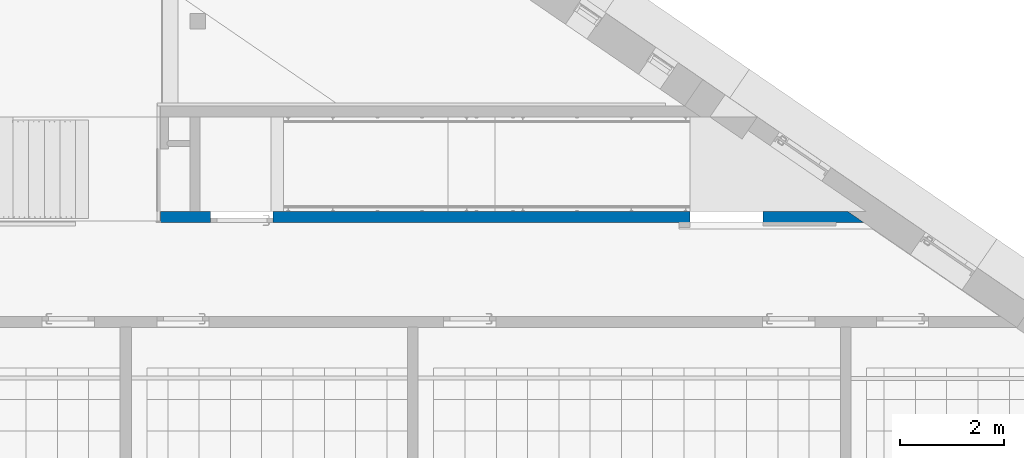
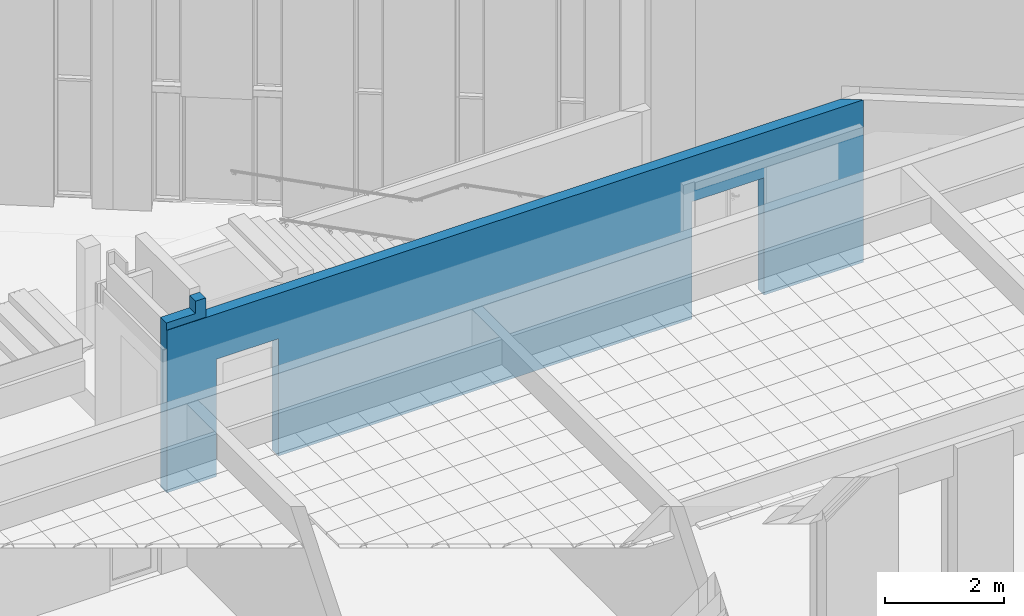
# One storey, part 43 of 79: 1 wall, 2 openings.
"""IFC2X3 building model written with IfcOpenShell, lengths in millimetres."""

from ifc_helpers import new_model, entity, si_unit, converted_unit, derived_unit, money_unit, direction, frame, origin_with_axes, place, context, subcontext, project, spatial, faceted_brep, material, material_list, type_object, element, save


model = new_model("IFC2X3")

# Units and contexts
model_context = context("Model", 3, precision=0.01, world=origin_with_axes(), true_north=direction((0.0, 1.0)))
body_context = subcontext(model_context, "Body", "Model", "MODEL_VIEW")
ifc_project = project(units=[si_unit("LENGTHUNIT", "METRE", prefix="MILLI"), si_unit("AREAUNIT", "SQUARE_METRE"), si_unit("VOLUMEUNIT", "CUBIC_METRE"), converted_unit("PLANEANGLEUNIT", "DEGREE", entity("IfcPlaneAngleMeasure", 0.0174532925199), si_unit("PLANEANGLEUNIT", "RADIAN"), dimensions=[0, 0, 0, 0, 0, 0, 0]), si_unit("SOLIDANGLEUNIT", "STERADIAN"), money_unit("EUR"), converted_unit("TIMEUNIT", "Year", entity("IfcTimeMeasure", 31556926.0), si_unit("TIMEUNIT", "SECOND"), dimensions=[0, 0, 1, 0, 0, 0, 0]), si_unit("MASSUNIT", "GRAM", prefix="KILO"), si_unit("THERMODYNAMICTEMPERATUREUNIT", "DEGREE_CELSIUS"), si_unit("LUMINOUSINTENSITYUNIT", "LUMEN"), si_unit("ENERGYUNIT", "JOULE", prefix="MEGA"), derived_unit("THERMALCONDUCTANCEUNIT", [(si_unit("POWERUNIT", "WATT"), 1), (si_unit("LENGTHUNIT", "METRE"), -1), (si_unit("THERMODYNAMICTEMPERATUREUNIT", "KELVIN"), -1)]), derived_unit("SPECIFICHEATCAPACITYUNIT", [(si_unit("ENERGYUNIT", "JOULE"), 1), (si_unit("MASSUNIT", "GRAM", prefix="KILO"), -1), (si_unit("THERMODYNAMICTEMPERATUREUNIT", "KELVIN"), -1)]), derived_unit("MASSDENSITYUNIT", [(si_unit("MASSUNIT", "GRAM", prefix="KILO"), 1), (si_unit("VOLUMEUNIT", "CUBIC_METRE"), -1)])], contexts=[model_context])

# Site, building, storey
site_placement = place(None, origin_with_axes())
site = spatial("IfcSite", under=ifc_project, at=site_placement, Name="L.Koidula tn 11b", CompositionType="ELEMENT")
building_placement = place(site_placement, origin_with_axes())
building = spatial("IfcBuilding", under=site, at=building_placement, Name="Rakvere Riigigümnaasium", CompositionType="ELEMENT")
storey_placement = place(building_placement, frame((0.0, 0.0, 3720.0), z_axis=(0.0, 0.0, 1.0), x_axis=(1.0, 0.0, 0.0)))
storey = spatial("IfcBuildingStorey", under=building, at=storey_placement, Name="2.korrus +3,72", CompositionType="ELEMENT", Elevation=3720.0)

# Wall, openings
ifc_material_1 = material(Name="Betoon element / plaat")
ifc_material_2 = material(Name="siseviimistlus-seinad")
ifc_material_list = material_list([ifc_material_1, ifc_material_2])
wall_type = type_object("IfcWallType", Name="SS-01-1 210", PredefinedType="NOTDEFINED")
wall_placement = place(storey_placement, frame((75429.9821418, 15100.4785302, 0.0), z_axis=(0.0, 0.0, 1.0), x_axis=(1.0, 0.0, 0.0)))
wall = element("IfcWall", 1, at=wall_placement, inside=storey, type_object=wall_type, material=ifc_material_list, Name="Sisesein", context=body_context, shape_type="Brep", body=[
    faceted_brep([(960.017848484, 200.0, 2400.0), (960.017848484, 200.0, 0.0), (0.0, 200.0, 0.0), (0.0, 200.0, 3470.0), (559.99999376, 200.0, 3470.0), (559.99999376, 199.994227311, 3720.0), (760.000000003, 199.992165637, 3720.0), (760.000000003, 199.992165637, 3325.0), (13176.0375826, 200.001210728, 3325.0), (13176.0375826, 200.0, 0.0), (11560.0178498, 200.0, 0.0), (11560.0178498, 200.0, 2400.0), (10160.0178498, 200.0, 2400.0), (10160.0178498, 200.0, 0.0), (2160.01784848, 200.0, 0.0), (2160.01784848, 200.0, 2400.0), (960.017848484, -0.000390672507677, 2400.0), (960.017848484, 0.0, 0.0), (0.0, 0.0, 0.0), (1.42108547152e-10, -0.000535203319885, 3470.0), (560.000024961, -0.000390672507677, 3470.0), (560.000024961, -0.000390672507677, 3720.0), (760.000064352, -0.000205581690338, 3720.0), (760.000064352, -0.000205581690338, 3325.0), (13467.6344513, 0.0, 3325.0), (13467.6344513, 0.0, 0.0), (11560.0178498, 0.0, 0.0), (11560.0178498, -0.000390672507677, 2400.0), (10160.0178498, -0.000390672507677, 2400.0), (10160.0178498, 0.0, 0.0), (2160.01784848, 0.0, 0.0), (2160.01784848, -0.000390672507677, 2400.0)], [[[0, 1, 2, 3, 4, 5, 6, 7, 8, 9, 10, 11, 12, 13, 14, 15]], [[1, 0, 16, 17]], [[1, 17, 18, 2]], [[2, 18, 19, 3]], [[19, 20, 4, 3]], [[4, 20, 21, 5]], [[22, 6, 5, 21]], [[6, 22, 23, 7]], [[8, 7, 23, 24]], [[25, 9, 8, 24]], [[10, 9, 25, 26]], [[10, 26, 27, 11]], [[11, 27, 28, 12]], [[12, 28, 29, 13]], [[30, 14, 13, 29]], [[15, 14, 30, 31]], [[0, 15, 31, 16]], [[31, 30, 29, 28, 27, 26, 25, 24, 23, 22, 21, 20, 19, 18, 17, 16]]]),
    faceted_brep([(960.017848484, -0.000205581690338, 2400.0), (960.017848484, 0.0, 0.0), (0.0, 0.0, 0.0), (9.52127265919e-10, -0.000963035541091, 3325.0), (760.000064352, -0.000205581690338, 3325.0), (13467.6344513, 0.0, 3325.0), (13467.6344513, 0.0, 0.0), (11560.0178498, 0.0, 0.0), (11560.0178498, -0.000205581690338, 2400.0), (10160.0178498, -0.000205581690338, 2400.0), (10160.0178498, 0.0, 0.0), (2160.01784848, 0.0, 0.0), (2160.01784848, -0.000205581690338, 2400.0), (960.017848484, -10.0, 2400.0), (960.017848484, -10.0, 0.0), (0.0, -10.0, 0.0), (0.0, -10.0, 3325.0), (13482.2142947, -10.0, 3325.0), (13482.2142947, -10.0, 0.0), (11560.0178498, -10.0, 0.0), (11560.0178498, -10.0, 2400.0), (10160.0178498, -10.0, 2400.0), (10160.0178498, -10.0, 0.0), (2160.01784848, -10.0, 0.0), (2160.01784848, -10.0, 2400.0)], [[[0, 1, 2, 3, 4, 5, 6, 7, 8, 9, 10, 11, 12]], [[1, 0, 13, 14]], [[1, 14, 15, 2]], [[2, 15, 16, 3]], [[3, 16, 17, 5, 4]], [[18, 6, 5, 17]], [[7, 6, 18, 19]], [[7, 19, 20, 8]], [[8, 20, 21, 9]], [[9, 21, 22, 10]], [[23, 11, 10, 22]], [[12, 11, 23, 24]], [[0, 12, 24, 13]], [[24, 23, 22, 21, 20, 19, 18, 17, 16, 15, 14, 13]]]),
])
opening_1_placement = place(wall_placement, frame((1560.01784848, 0.0, 0.0), z_axis=(0.0, 0.0, 1.0), x_axis=(1.0, 0.0, 0.0)))
element("IfcOpeningElement", 2, at=opening_1_placement, cuts=wall, Name="SU-059", context=body_context, shape_type="Brep", body=[
    faceted_brep([(-600.0, -420.0, 0.0), (-600.0, -420.0, 2400.0), (-600.0, 210.0, 2400.0), (-600.0, 210.0, 0.0), (600.0, -420.0, 0.0), (600.0, -420.0, 2400.0), (600.0, 210.0, 2400.0), (600.0, 210.0, 0.0)], [[[0, 1, 2, 3]], [[0, 4, 5, 1]], [[1, 5, 6, 2]], [[3, 2, 6, 7]], [[4, 0, 3, 7]], [[5, 4, 7, 6]]]),
])
opening_2_placement = place(wall_placement, frame((10860.0178498, 0.0, 0.0), z_axis=(0.0, 0.0, 1.0), x_axis=(1.0, 0.0, 0.0)))
element("IfcOpeningElement", 3, at=opening_2_placement, cuts=wall, Name="SU-060", context=body_context, shape_type="Brep", body=[
    faceted_brep([(700.0, -220.0, 2400.0), (700.0, -220.0, 0.0), (700.0, -10.0, 0.0), (700.0, -10.0, 2400.0), (-700.0, -220.0, 2400.0), (-700.0, -220.0, 0.0), (-700.0, -10.0, 0.0), (-700.0, -10.0, 2400.0)], [[[0, 1, 2, 3]], [[0, 4, 5, 1]], [[1, 5, 6, 2]], [[3, 2, 6, 7]], [[4, 0, 3, 7]], [[5, 4, 7, 6]]]),
    faceted_brep([(700.0, 200.0, 0.0), (700.0, 200.0, 2400.0), (700.0, -10.0, 2400.0), (700.0, -10.0, 0.0), (-700.0, 200.0, 0.0), (-700.0, 200.0, 2400.0), (-700.0, -10.0, 2400.0), (-700.0, -10.0, 0.0)], [[[0, 1, 2, 3]], [[0, 4, 5, 1]], [[1, 5, 6, 2]], [[3, 2, 6, 7]], [[4, 0, 3, 7]], [[5, 4, 7, 6]]]),
])

save(model, "model.ifc")
